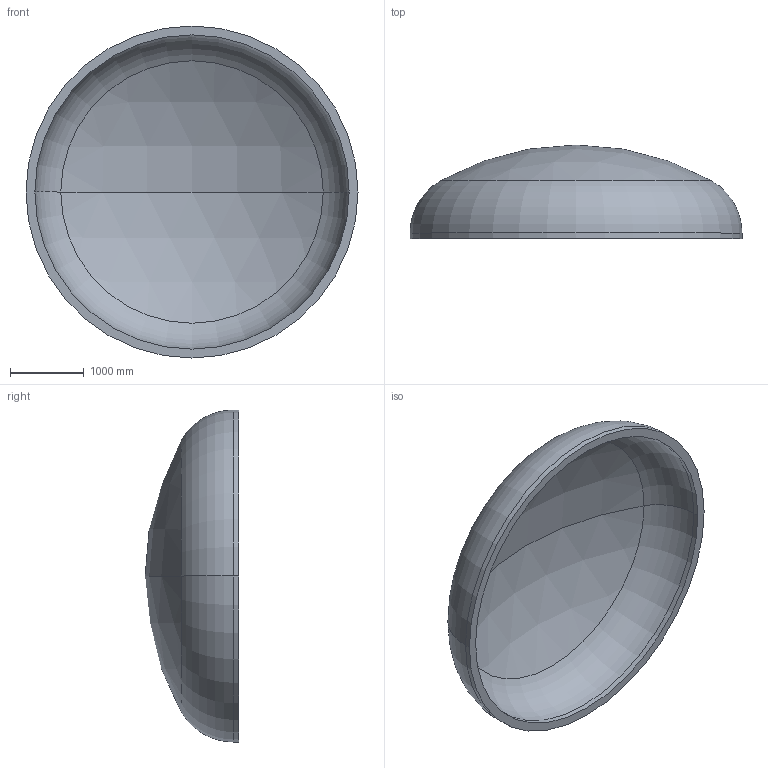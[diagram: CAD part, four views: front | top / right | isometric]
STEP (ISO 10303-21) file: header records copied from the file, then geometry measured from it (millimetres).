
FILE_DESCRIPTION (( 'STEP AP203' ), '1' );
FILE_NAME ('DIN 28013 Korbbogenform_-_Boden DIN 28013 - 4500 x 75 - I - s=120.step', '2016-07-01T23:59:07', ( '' ), ( '' ), 'SwSTEP 2.0', 'SolidWorks 2013', '' );
FILE_SCHEMA (( 'CONFIG_CONTROL_DESIGN' ));
Length unit declared in the file: millimetre
Products named in the file (1): DIN 28013 Korbbogenform_-_Boden DIN 28013 - 4500 x 75 - I - s=120
Bounding box: 4500 x 1269.17 x 4500 mm (x, y, z)
Volume: 2677847364.6 mm3; surface area: 46312154.2 mm2
Topology: 1 solids, 1 shells, 13 faces, 24 edges, 14 vertices
Faces by surface type: torus 4, cylinder 4, sphere 4, plane 1
Entity records: 407 total; most frequent: DIRECTION 72, CARTESIAN_POINT 52, ORIENTED_EDGE 48, AXIS2_PLACEMENT_3D 34, EDGE_CURVE 24, CIRCLE 20, VERTEX_POINT 14, EDGE_LOOP 14
